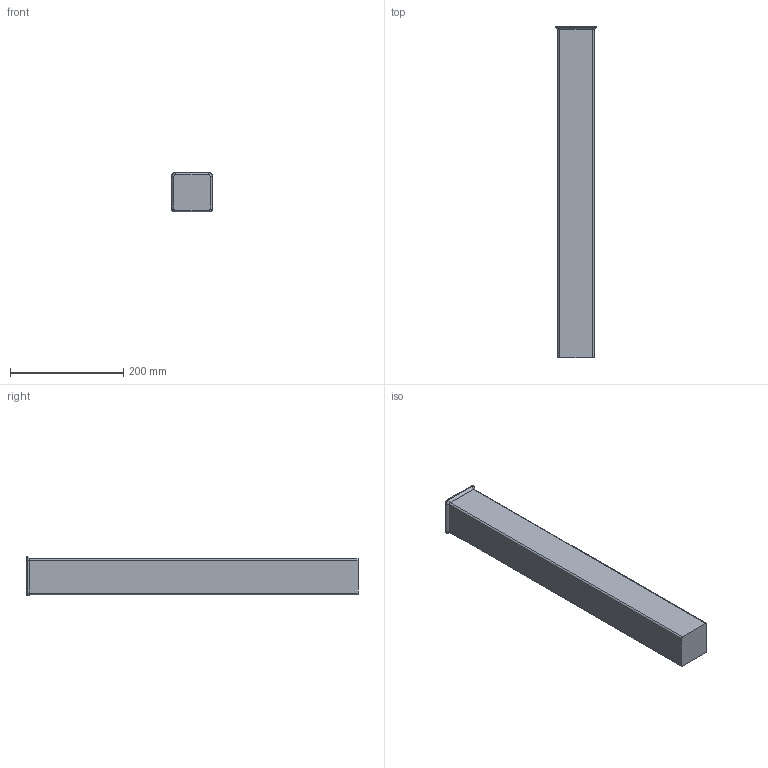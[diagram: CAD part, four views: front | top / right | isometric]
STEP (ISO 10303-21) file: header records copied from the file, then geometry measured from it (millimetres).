
FILE_DESCRIPTION((''),'2;1');
FILE_NAME('1029W7903-A-18-1_AF0','2020-08-21T08:59:22',('mbes'),(''),'CREO PARAMETRIC BY PTC INC, 2019344','CREO PARAMETRIC BY PTC INC, 2019344','');
FILE_SCHEMA(('AUTOMOTIVE_DESIGN { 1 0 10303 214 1 1 1 1 }'));
Length unit declared in the file: millimetre
Products named in the file (1): 1029W7903-A-18-1_AF0
Bounding box: 71.91 x 586.2 x 69.75 mm (x, y, z)
Volume: 2362524 mm3; surface area: 156332.5 mm2
Topology: 1 solids, 1 shells, 43 faces, 114 edges, 66 vertices
Faces by surface type: cylinder 20, bspline 12, plane 11
Entity records: 1647 total; most frequent: CARTESIAN_POINT 482, ORIENTED_EDGE 228, DIRECTION 220, EDGE_CURVE 114, AXIS2_PLACEMENT_3D 80, VERTEX_POINT 66, COLOUR_RGB 63, VECTOR 60
